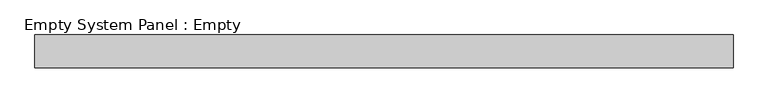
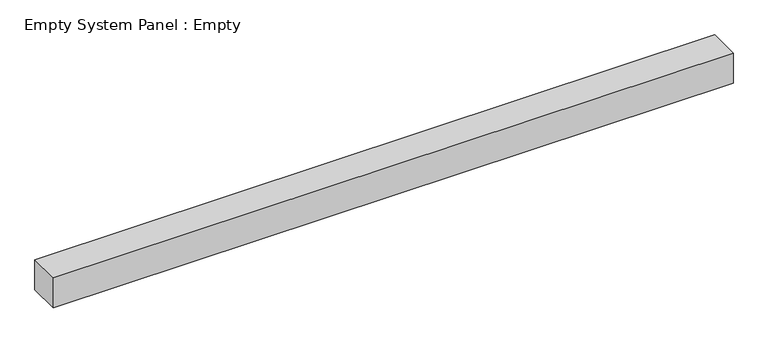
"""IFC4 building model written with IfcOpenShell, lengths in millimetres: plate geometry, Empty System Panel : Empty."""

from ifc_helpers import new_model, si_unit, origin, origin_with_axes, place, context, project, spatial, polyline, outline, extrude, source, transform, mapped, element, save


def empty_system_panel_empty_c463234d(model_context):
    return source(origin(), model_context, "Body", "SweptSolid", [
        extrude(outline(polyline([(1067.5, -50.0), (-1067.5, -50.0), (-1067.5, 50.0), (1067.5, 50.0), (1067.5, -50.0)])), origin_with_axes(), (0.0, 0.0, 1.0), 100.0),
    ])


if __name__ == "__main__":
    model = new_model("IFC4")
    model_context = context("Model", 3, world=origin())
    ifc_project = project(units=[si_unit("LENGTHUNIT", "METRE", prefix="MILLI")], contexts=[model_context])
    site = spatial("IfcSite", under=ifc_project)
    building = spatial("IfcBuilding", under=site)
    placement = place(None, origin())
    empty_system_panel_empty_shape = empty_system_panel_empty_c463234d(model_context)
    element("IfcPlate", 1, ObjectType="Empty System Panel : Empty", at=placement, inside=building, context=model_context, shape_type="MappedRepresentation", body=[
        mapped(empty_system_panel_empty_shape, transform((0.0, 0.0, 0.0), x_axis=(1.0, 0.0, 0.0), y_axis=(0.0, 1.0, 0.0), z_axis=(0.0, 0.0, 1.0))),
    ])
    save(model, "model.ifc")
